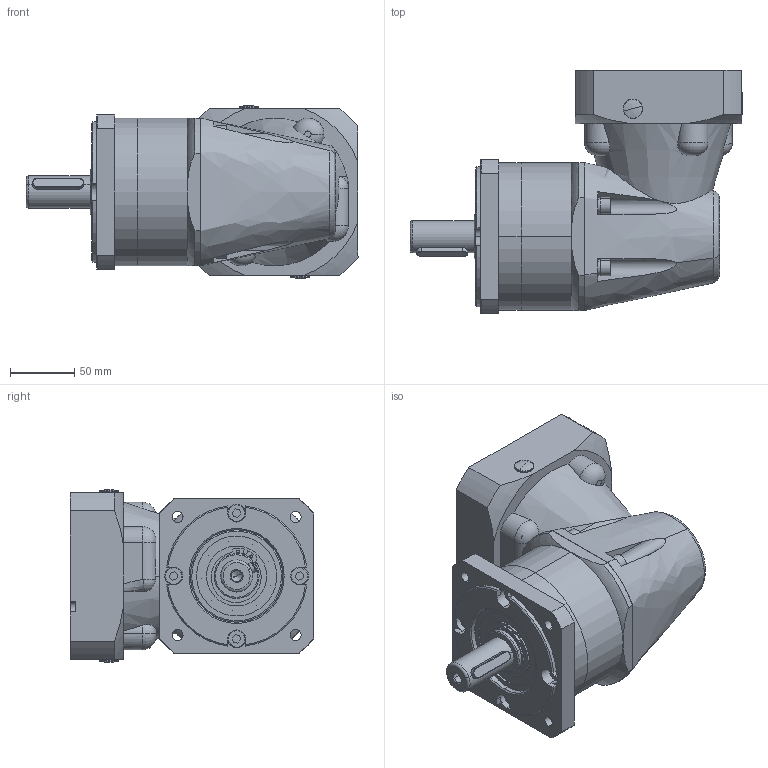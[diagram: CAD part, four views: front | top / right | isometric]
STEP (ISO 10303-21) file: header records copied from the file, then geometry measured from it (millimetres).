
FILE_DESCRIPTION (( 'STEP AP203' ), '1' );
FILE_NAME ('WPF115L1-i-P2-S2-24-58-110-145-M8.step', '2020-03-30T09:01:46', ( '个人用户' ), ( '微软中国' ), 'SwSTEP 2.0', 'SolidWorks 2018', '' );
FILE_SCHEMA (( 'CONFIG_CONTROL_DESIGN' ));
Length unit declared in the file: millimetre
Products named in the file (1): WPF115L1-i-P2-S2-24-58-110-145-M8
Bounding box: 258.5 x 189.5 x 134.6 mm (x, y, z)
Volume: 1806423.1 mm3; surface area: 420811.8 mm2
Topology: 43 solids, 43 shells, 1342 faces, 3196 edges, 2030 vertices
Faces by surface type: cylinder 451, plane 418, torus 168, sphere 150, cone 148, bspline 7
Entity records: 47122 total; most frequent: CARTESIAN_POINT 15434, DIRECTION 6983, ORIENTED_EDGE 6324, EDGE_CURVE 3162, AXIS2_PLACEMENT_3D 2917, VERTEX_POINT 2030, CIRCLE 1581, EDGE_LOOP 1560
